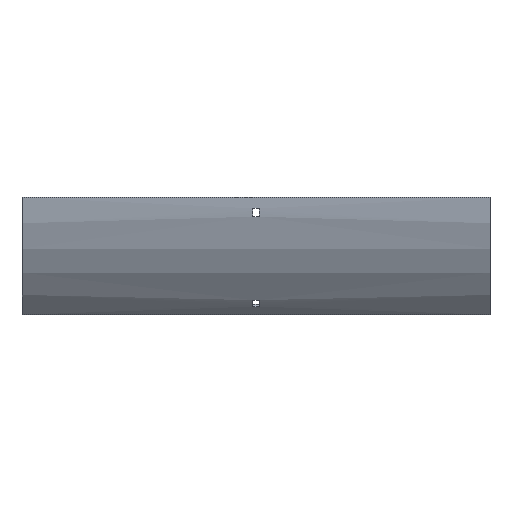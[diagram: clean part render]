
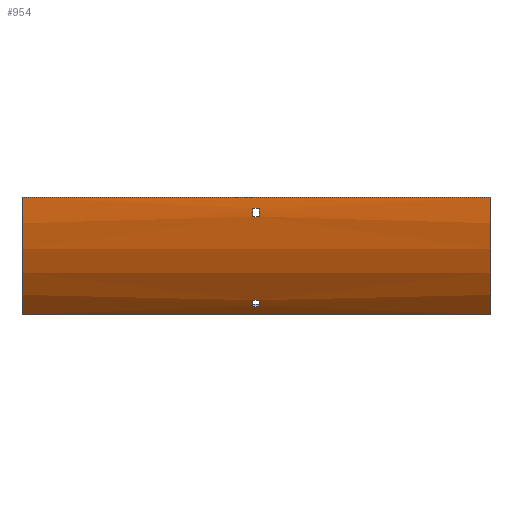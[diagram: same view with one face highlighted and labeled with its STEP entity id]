
A CAD part, front view. The second image highlights one B-rep face of the part: STEP entity #954.
In plain terms, the highlighted cylindrical face has radius 179 mm (diameter 358 mm), a partial arc.
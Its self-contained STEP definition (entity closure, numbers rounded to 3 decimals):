
#3 = CARTESIAN_POINT ( 'NONE',  ( 252., -26.572, -126.572 ) ) ;
#16 = LINE ( 'NONE', #1056, #363 ) ;
#35 = CARTESIAN_POINT ( 'NONE',  ( -252., -79., 0. ) ) ;
#37 = AXIS2_PLACEMENT_3D ( 'NONE', #104, #1533, #1136 ) ;
#87 = EDGE_CURVE ( 'NONE', #1317, #1042, #550, .T. ) ;
#90 = CARTESIAN_POINT ( 'NONE',  ( -252., 100., 0. ) ) ;
#95 = CIRCLE ( 'NONE', #691, 179. ) ;
#104 = CARTESIAN_POINT ( 'NONE',  ( 252., 100., 0. ) ) ;
#116 = ORIENTED_EDGE ( 'NONE', *, *, #730, .T. ) ;
#130 = EDGE_CURVE ( 'NONE', #1360, #312, #905, .T. ) ;
#155 = CARTESIAN_POINT ( 'NONE',  ( 3.25, 100., 0. ) ) ;
#160 = CARTESIAN_POINT ( 'NONE',  ( 252., 100., 0. ) ) ;
#227 = AXIS2_PLACEMENT_3D ( 'NONE', #1333, #665, #1309 ) ;
#228 = DIRECTION ( 'NONE',  ( 0., 0., -1. ) ) ;
#229 = DIRECTION ( 'NONE',  ( -1., 0., 0. ) ) ;
#230 = AXIS2_PLACEMENT_3D ( 'NONE', #155, #1440, #933 ) ;
#236 = CARTESIAN_POINT ( 'NONE',  ( 252., -26.572, -126.572 ) ) ;
#259 = CARTESIAN_POINT ( 'NONE',  ( 252., -78.597, -12. ) ) ;
#288 = VECTOR ( 'NONE', #402, 1000. ) ;
#300 = VERTEX_POINT ( 'NONE', #551 ) ;
#312 = VERTEX_POINT ( 'NONE', #1054 ) ;
#313 = ORIENTED_EDGE ( 'NONE', *, *, #942, .T. ) ;
#322 = CIRCLE ( 'NONE', #1283, 179. ) ;
#363 = VECTOR ( 'NONE', #1455, 1000. ) ;
#364 = FACE_OUTER_BOUND ( 'NONE', #898, .T. ) ;
#369 = DIRECTION ( 'NONE',  ( 1., 0., 0. ) ) ;
#376 = CARTESIAN_POINT ( 'NONE',  ( -3.25, -77.764, -21. ) ) ;
#397 = DIRECTION ( 'NONE',  ( -1., 0., 0. ) ) ;
#402 = DIRECTION ( 'NONE',  ( 1., 0., 0. ) ) ;
#417 = CARTESIAN_POINT ( 'NONE',  ( 252., -34.773, -117.802 ) ) ;
#420 = CARTESIAN_POINT ( 'NONE',  ( 3.25, -78.597, -12. ) ) ;
#433 = ORIENTED_EDGE ( 'NONE', *, *, #1356, .F. ) ;
#510 = VERTEX_POINT ( 'NONE', #1080 ) ;
#512 = DIRECTION ( 'NONE',  ( 1., 0., 0. ) ) ;
#523 = VECTOR ( 'NONE', #1269, 1000. ) ;
#550 = LINE ( 'NONE', #417, #288 ) ;
#551 = CARTESIAN_POINT ( 'NONE',  ( 3.25, -77.764, -21. ) ) ;
#600 = CARTESIAN_POINT ( 'NONE',  ( -3.25, 100., 0. ) ) ;
#607 = EDGE_CURVE ( 'NONE', #1042, #1360, #1212, .T. ) ;
#611 = ORIENTED_EDGE ( 'NONE', *, *, #130, .F. ) ;
#626 = FACE_BOUND ( 'NONE', #1678, .T. ) ;
#665 = DIRECTION ( 'NONE',  ( -1., 0., 0. ) ) ;
#675 = EDGE_CURVE ( 'NONE', #1474, #510, #961, .T. ) ;
#677 = ORIENTED_EDGE ( 'NONE', *, *, #675, .T. ) ;
#685 = VERTEX_POINT ( 'NONE', #420 ) ;
#691 = AXIS2_PLACEMENT_3D ( 'NONE', #90, #369, #753 ) ;
#730 = EDGE_CURVE ( 'NONE', #300, #1474, #1563, .T. ) ;
#752 = EDGE_CURVE ( 'NONE', #685, #300, #1508, .T. ) ;
#753 = DIRECTION ( 'NONE',  ( 0., 0., -1. ) ) ;
#764 = CARTESIAN_POINT ( 'NONE',  ( 3.25, -34.773, -117.802 ) ) ;
#775 = VERTEX_POINT ( 'NONE', #35 ) ;
#787 = EDGE_CURVE ( 'NONE', #1230, #775, #16, .T. ) ;
#832 = ORIENTED_EDGE ( 'NONE', *, *, #787, .T. ) ;
#885 = CARTESIAN_POINT ( 'NONE',  ( -3.25, -34.773, -117.802 ) ) ;
#895 = DIRECTION ( 'NONE',  ( 0., 0., -1. ) ) ;
#898 = EDGE_LOOP ( 'NONE', ( #313, #1684, #1144, #832 ) ) ;
#905 = LINE ( 'NONE', #1176, #1196 ) ;
#933 = DIRECTION ( 'NONE',  ( 0., 0., -1. ) ) ;
#942 = EDGE_CURVE ( 'NONE', #775, #1344, #95, .T. ) ;
#954 = ADVANCED_FACE ( 'NONE', ( #364, #1284, #626 ), #1276, .T. ) ;
#958 = CARTESIAN_POINT ( 'NONE',  ( 252., -79., 0. ) ) ;
#961 = CIRCLE ( 'NONE', #227, 179. ) ;
#997 = DIRECTION ( 'NONE',  ( 0., 0., 1. ) ) ;
#1028 = ORIENTED_EDGE ( 'NONE', *, *, #752, .T. ) ;
#1032 = EDGE_CURVE ( 'NONE', #1123, #1344, #1379, .T. ) ;
#1042 = VERTEX_POINT ( 'NONE', #764 ) ;
#1054 = CARTESIAN_POINT ( 'NONE',  ( -3.25, -40.547, -110.849 ) ) ;
#1056 = CARTESIAN_POINT ( 'NONE',  ( 252., -79., 0. ) ) ;
#1080 = CARTESIAN_POINT ( 'NONE',  ( -3.25, -78.597, -12. ) ) ;
#1097 = ORIENTED_EDGE ( 'NONE', *, *, #87, .F. ) ;
#1116 = EDGE_CURVE ( 'NONE', #1230, #1123, #1666, .T. ) ;
#1118 = CARTESIAN_POINT ( 'NONE',  ( 3.25, -40.547, -110.849 ) ) ;
#1123 = VERTEX_POINT ( 'NONE', #3 ) ;
#1136 = DIRECTION ( 'NONE',  ( 0., 0., 1. ) ) ;
#1140 = AXIS2_PLACEMENT_3D ( 'NONE', #160, #512, #895 ) ;
#1144 = ORIENTED_EDGE ( 'NONE', *, *, #1116, .F. ) ;
#1145 = ORIENTED_EDGE ( 'NONE', *, *, #1487, .T. ) ;
#1166 = DIRECTION ( 'NONE',  ( -1., 0., 0. ) ) ;
#1174 = VECTOR ( 'NONE', #1303, 1000. ) ;
#1176 = CARTESIAN_POINT ( 'NONE',  ( 252., -40.547, -110.849 ) ) ;
#1190 = CARTESIAN_POINT ( 'NONE',  ( 252., -77.764, -21. ) ) ;
#1196 = VECTOR ( 'NONE', #1166, 1000. ) ;
#1212 = CIRCLE ( 'NONE', #1420, 179. ) ;
#1230 = VERTEX_POINT ( 'NONE', #958 ) ;
#1268 = CARTESIAN_POINT ( 'NONE',  ( 3.25, 100., 0. ) ) ;
#1269 = DIRECTION ( 'NONE',  ( -1., 0., 0. ) ) ;
#1276 = CYLINDRICAL_SURFACE ( 'NONE', #37, 179. ) ;
#1283 = AXIS2_PLACEMENT_3D ( 'NONE', #600, #1531, #228 ) ;
#1284 = FACE_BOUND ( 'NONE', #1556, .T. ) ;
#1303 = DIRECTION ( 'NONE',  ( 1., 0., 0. ) ) ;
#1309 = DIRECTION ( 'NONE',  ( 0., 0., 1. ) ) ;
#1317 = VERTEX_POINT ( 'NONE', #885 ) ;
#1333 = CARTESIAN_POINT ( 'NONE',  ( -3.25, 100., 0. ) ) ;
#1344 = VERTEX_POINT ( 'NONE', #1545 ) ;
#1356 = EDGE_CURVE ( 'NONE', #312, #1317, #322, .T. ) ;
#1360 = VERTEX_POINT ( 'NONE', #1118 ) ;
#1379 = LINE ( 'NONE', #236, #523 ) ;
#1420 = AXIS2_PLACEMENT_3D ( 'NONE', #1268, #229, #997 ) ;
#1440 = DIRECTION ( 'NONE',  ( 1., 0., 0. ) ) ;
#1455 = DIRECTION ( 'NONE',  ( -1., 0., 0. ) ) ;
#1474 = VERTEX_POINT ( 'NONE', #376 ) ;
#1487 = EDGE_CURVE ( 'NONE', #510, #685, #1687, .T. ) ;
#1508 = CIRCLE ( 'NONE', #230, 179. ) ;
#1531 = DIRECTION ( 'NONE',  ( 1., 0., 0. ) ) ;
#1533 = DIRECTION ( 'NONE',  ( -1., 0., 0. ) ) ;
#1545 = CARTESIAN_POINT ( 'NONE',  ( -252., -26.572, -126.572 ) ) ;
#1556 = EDGE_LOOP ( 'NONE', ( #116, #677, #1145, #1028 ) ) ;
#1563 = LINE ( 'NONE', #1190, #1621 ) ;
#1567 = ORIENTED_EDGE ( 'NONE', *, *, #607, .F. ) ;
#1621 = VECTOR ( 'NONE', #397, 1000. ) ;
#1666 = CIRCLE ( 'NONE', #1140, 179. ) ;
#1678 = EDGE_LOOP ( 'NONE', ( #433, #611, #1567, #1097 ) ) ;
#1684 = ORIENTED_EDGE ( 'NONE', *, *, #1032, .F. ) ;
#1687 = LINE ( 'NONE', #259, #1174 ) ;
